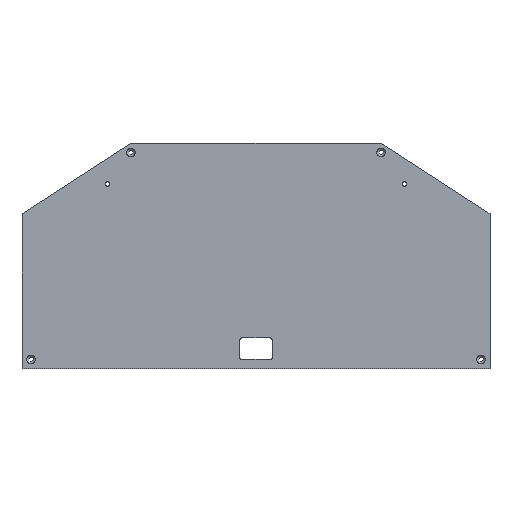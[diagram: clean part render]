
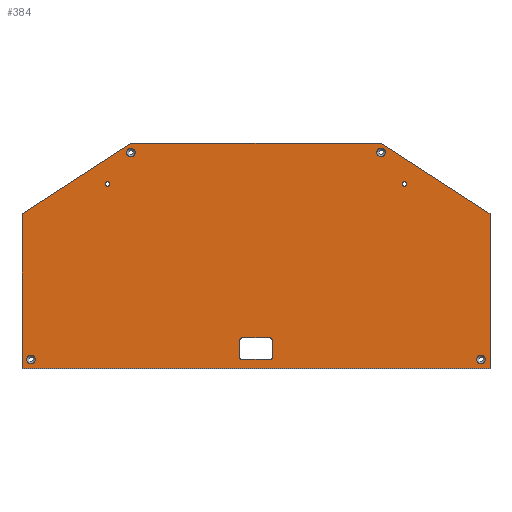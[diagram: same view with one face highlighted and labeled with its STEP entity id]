
A CAD part, top view. The second image highlights one B-rep face of the part: STEP entity #384.
In plain terms, the highlighted planar face has unit normal (0, 0, 1).
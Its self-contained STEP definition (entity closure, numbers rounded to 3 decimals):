
#123=CARTESIAN_POINT('Axis2P3D Location',(0.,0.,6.)) ;
#128=CARTESIAN_POINT('Line Origine',(130.,0.,6.)) ;
#132=CARTESIAN_POINT('Vertex',(0.,0.,6.)) ;
#134=CARTESIAN_POINT('Vertex',(260.,0.,6.)) ;
#137=CARTESIAN_POINT('Line Origine',(260.,86.,6.)) ;
#141=CARTESIAN_POINT('Vertex',(260.,172.,6.)) ;
#144=CARTESIAN_POINT('Line Origine',(199.945,211.,6.)) ;
#148=CARTESIAN_POINT('Vertex',(139.891,250.,6.)) ;
#151=CARTESIAN_POINT('Line Origine',(69.945,250.,6.)) ;
#155=CARTESIAN_POINT('Vertex',(0.,250.,6.)) ;
#158=CARTESIAN_POINT('Line Origine',(-69.945,250.,6.)) ;
#162=CARTESIAN_POINT('Vertex',(-139.891,250.,6.)) ;
#165=CARTESIAN_POINT('Line Origine',(-199.945,211.,6.)) ;
#169=CARTESIAN_POINT('Vertex',(-260.,172.,6.)) ;
#172=CARTESIAN_POINT('Line Origine',(-260.,86.,6.)) ;
#176=CARTESIAN_POINT('Vertex',(-260.,0.,6.)) ;
#179=CARTESIAN_POINT('Line Origine',(-130.,0.,6.)) ;
#194=CARTESIAN_POINT('Axis2P3D Location',(250.,10.,6.)) ;
#198=CARTESIAN_POINT('Vertex',(254.169,7.723,6.)) ;
#200=CARTESIAN_POINT('Vertex',(245.831,12.277,6.)) ;
#203=CARTESIAN_POINT('Axis2P3D Location',(250.,10.,6.)) ;
#212=CARTESIAN_POINT('Axis2P3D Location',(165.,205.,6.)) ;
#216=CARTESIAN_POINT('Vertex',(167.194,203.801,6.)) ;
#218=CARTESIAN_POINT('Vertex',(162.806,206.199,6.)) ;
#221=CARTESIAN_POINT('Axis2P3D Location',(165.,205.,6.)) ;
#230=CARTESIAN_POINT('Axis2P3D Location',(139.,240.,6.)) ;
#234=CARTESIAN_POINT('Vertex',(143.169,237.723,6.)) ;
#236=CARTESIAN_POINT('Vertex',(134.831,242.277,6.)) ;
#239=CARTESIAN_POINT('Axis2P3D Location',(139.,240.,6.)) ;
#248=CARTESIAN_POINT('Axis2P3D Location',(-165.,205.,6.)) ;
#252=CARTESIAN_POINT('Vertex',(-167.194,206.199,6.)) ;
#254=CARTESIAN_POINT('Vertex',(-162.806,203.801,6.)) ;
#257=CARTESIAN_POINT('Axis2P3D Location',(-165.,205.,6.)) ;
#266=CARTESIAN_POINT('Axis2P3D Location',(-250.,10.,6.)) ;
#270=CARTESIAN_POINT('Vertex',(-254.169,12.277,6.)) ;
#272=CARTESIAN_POINT('Vertex',(-245.831,7.723,6.)) ;
#275=CARTESIAN_POINT('Axis2P3D Location',(-250.,10.,6.)) ;
#284=CARTESIAN_POINT('Axis2P3D Location',(-139.,240.,6.)) ;
#288=CARTESIAN_POINT('Vertex',(-143.169,242.277,6.)) ;
#290=CARTESIAN_POINT('Vertex',(-134.831,237.723,6.)) ;
#293=CARTESIAN_POINT('Axis2P3D Location',(-139.,240.,6.)) ;
#302=CARTESIAN_POINT('Line Origine',(-7.75,34.,6.)) ;
#306=CARTESIAN_POINT('Vertex',(0.,34.,6.)) ;
#308=CARTESIAN_POINT('Vertex',(-15.5,34.,6.)) ;
#311=CARTESIAN_POINT('Line Origine',(7.75,34.,6.)) ;
#315=CARTESIAN_POINT('Vertex',(15.5,34.,6.)) ;
#318=CARTESIAN_POINT('Axis2P3D Location',(15.5,31.5,6.)) ;
#322=CARTESIAN_POINT('Vertex',(18.,31.5,6.)) ;
#325=CARTESIAN_POINT('Line Origine',(18.,22.,6.)) ;
#329=CARTESIAN_POINT('Vertex',(18.,12.5,6.)) ;
#332=CARTESIAN_POINT('Axis2P3D Location',(15.5,12.5,6.)) ;
#336=CARTESIAN_POINT('Vertex',(15.5,10.,6.)) ;
#339=CARTESIAN_POINT('Line Origine',(7.75,10.,6.)) ;
#343=CARTESIAN_POINT('Vertex',(0.,10.,6.)) ;
#346=CARTESIAN_POINT('Line Origine',(-7.75,10.,6.)) ;
#350=CARTESIAN_POINT('Vertex',(-15.5,10.,6.)) ;
#353=CARTESIAN_POINT('Axis2P3D Location',(-15.5,12.5,6.)) ;
#357=CARTESIAN_POINT('Vertex',(-18.,12.5,6.)) ;
#360=CARTESIAN_POINT('Line Origine',(-18.,22.,6.)) ;
#364=CARTESIAN_POINT('Vertex',(-18.,31.5,6.)) ;
#367=CARTESIAN_POINT('Axis2P3D Location',(-15.5,31.5,6.)) ;
#124=DIRECTION('Axis2P3D Direction',(0.,0.,1.)) ;
#125=DIRECTION('Axis2P3D XDirection',(1.,0.,0.)) ;
#129=DIRECTION('Vector Direction',(1.,0.,0.)) ;
#138=DIRECTION('Vector Direction',(0.,1.,0.)) ;
#145=DIRECTION('Vector Direction',(-0.839,0.545,0.)) ;
#152=DIRECTION('Vector Direction',(-1.,0.,0.)) ;
#159=DIRECTION('Vector Direction',(1.,0.,0.)) ;
#166=DIRECTION('Vector Direction',(0.839,0.545,0.)) ;
#173=DIRECTION('Vector Direction',(0.,1.,0.)) ;
#180=DIRECTION('Vector Direction',(-1.,0.,0.)) ;
#195=DIRECTION('Axis2P3D Direction',(0.,0.,1.)) ;
#204=DIRECTION('Axis2P3D Direction',(0.,0.,1.)) ;
#213=DIRECTION('Axis2P3D Direction',(0.,0.,1.)) ;
#222=DIRECTION('Axis2P3D Direction',(0.,0.,1.)) ;
#231=DIRECTION('Axis2P3D Direction',(0.,0.,1.)) ;
#240=DIRECTION('Axis2P3D Direction',(0.,0.,1.)) ;
#249=DIRECTION('Axis2P3D Direction',(0.,0.,1.)) ;
#258=DIRECTION('Axis2P3D Direction',(0.,0.,1.)) ;
#267=DIRECTION('Axis2P3D Direction',(0.,0.,1.)) ;
#276=DIRECTION('Axis2P3D Direction',(0.,0.,1.)) ;
#285=DIRECTION('Axis2P3D Direction',(0.,0.,1.)) ;
#294=DIRECTION('Axis2P3D Direction',(0.,0.,1.)) ;
#303=DIRECTION('Vector Direction',(1.,0.,0.)) ;
#312=DIRECTION('Vector Direction',(-1.,0.,0.)) ;
#319=DIRECTION('Axis2P3D Direction',(0.,0.,1.)) ;
#326=DIRECTION('Vector Direction',(0.,-1.,0.)) ;
#333=DIRECTION('Axis2P3D Direction',(0.,0.,1.)) ;
#340=DIRECTION('Vector Direction',(1.,0.,0.)) ;
#347=DIRECTION('Vector Direction',(-1.,0.,0.)) ;
#354=DIRECTION('Axis2P3D Direction',(0.,0.,1.)) ;
#361=DIRECTION('Vector Direction',(0.,-1.,0.)) ;
#368=DIRECTION('Axis2P3D Direction',(0.,0.,1.)) ;
#126=AXIS2_PLACEMENT_3D('Plane Axis2P3D',#123,#124,#125) ;
#196=AXIS2_PLACEMENT_3D('Circle Axis2P3D',#194,#195,$) ;
#205=AXIS2_PLACEMENT_3D('Circle Axis2P3D',#203,#204,$) ;
#214=AXIS2_PLACEMENT_3D('Circle Axis2P3D',#212,#213,$) ;
#223=AXIS2_PLACEMENT_3D('Circle Axis2P3D',#221,#222,$) ;
#232=AXIS2_PLACEMENT_3D('Circle Axis2P3D',#230,#231,$) ;
#241=AXIS2_PLACEMENT_3D('Circle Axis2P3D',#239,#240,$) ;
#250=AXIS2_PLACEMENT_3D('Circle Axis2P3D',#248,#249,$) ;
#259=AXIS2_PLACEMENT_3D('Circle Axis2P3D',#257,#258,$) ;
#268=AXIS2_PLACEMENT_3D('Circle Axis2P3D',#266,#267,$) ;
#277=AXIS2_PLACEMENT_3D('Circle Axis2P3D',#275,#276,$) ;
#286=AXIS2_PLACEMENT_3D('Circle Axis2P3D',#284,#285,$) ;
#295=AXIS2_PLACEMENT_3D('Circle Axis2P3D',#293,#294,$) ;
#320=AXIS2_PLACEMENT_3D('Circle Axis2P3D',#318,#319,$) ;
#334=AXIS2_PLACEMENT_3D('Circle Axis2P3D',#332,#333,$) ;
#355=AXIS2_PLACEMENT_3D('Circle Axis2P3D',#353,#354,$) ;
#369=AXIS2_PLACEMENT_3D('Circle Axis2P3D',#367,#368,$) ;
#185=ORIENTED_EDGE('',*,*,#136,.T.) ;
#186=ORIENTED_EDGE('',*,*,#143,.T.) ;
#187=ORIENTED_EDGE('',*,*,#150,.T.) ;
#188=ORIENTED_EDGE('',*,*,#157,.T.) ;
#189=ORIENTED_EDGE('',*,*,#164,.T.) ;
#190=ORIENTED_EDGE('',*,*,#171,.T.) ;
#191=ORIENTED_EDGE('',*,*,#178,.T.) ;
#192=ORIENTED_EDGE('',*,*,#183,.T.) ;
#209=ORIENTED_EDGE('',*,*,#202,.F.) ;
#210=ORIENTED_EDGE('',*,*,#207,.F.) ;
#227=ORIENTED_EDGE('',*,*,#220,.F.) ;
#228=ORIENTED_EDGE('',*,*,#225,.F.) ;
#245=ORIENTED_EDGE('',*,*,#238,.F.) ;
#246=ORIENTED_EDGE('',*,*,#243,.F.) ;
#263=ORIENTED_EDGE('',*,*,#256,.F.) ;
#264=ORIENTED_EDGE('',*,*,#261,.F.) ;
#281=ORIENTED_EDGE('',*,*,#274,.F.) ;
#282=ORIENTED_EDGE('',*,*,#279,.F.) ;
#299=ORIENTED_EDGE('',*,*,#292,.F.) ;
#300=ORIENTED_EDGE('',*,*,#297,.F.) ;
#373=ORIENTED_EDGE('',*,*,#310,.F.) ;
#374=ORIENTED_EDGE('',*,*,#317,.F.) ;
#375=ORIENTED_EDGE('',*,*,#324,.F.) ;
#376=ORIENTED_EDGE('',*,*,#331,.F.) ;
#377=ORIENTED_EDGE('',*,*,#338,.F.) ;
#378=ORIENTED_EDGE('',*,*,#345,.F.) ;
#379=ORIENTED_EDGE('',*,*,#352,.F.) ;
#380=ORIENTED_EDGE('',*,*,#359,.F.) ;
#381=ORIENTED_EDGE('',*,*,#366,.F.) ;
#382=ORIENTED_EDGE('',*,*,#371,.F.) ;
#211=FACE_BOUND('',#208,.T.) ;
#229=FACE_BOUND('',#226,.T.) ;
#247=FACE_BOUND('',#244,.T.) ;
#265=FACE_BOUND('',#262,.T.) ;
#283=FACE_BOUND('',#280,.T.) ;
#301=FACE_BOUND('',#298,.T.) ;
#383=FACE_BOUND('',#372,.T.) ;
#130=VECTOR('Line Direction',#129,1.) ;
#139=VECTOR('Line Direction',#138,1.) ;
#146=VECTOR('Line Direction',#145,1.) ;
#153=VECTOR('Line Direction',#152,1.) ;
#160=VECTOR('Line Direction',#159,1.) ;
#167=VECTOR('Line Direction',#166,1.) ;
#174=VECTOR('Line Direction',#173,1.) ;
#181=VECTOR('Line Direction',#180,1.) ;
#304=VECTOR('Line Direction',#303,1.) ;
#313=VECTOR('Line Direction',#312,1.) ;
#327=VECTOR('Line Direction',#326,1.) ;
#341=VECTOR('Line Direction',#340,1.) ;
#348=VECTOR('Line Direction',#347,1.) ;
#362=VECTOR('Line Direction',#361,1.) ;
#384=ADVANCED_FACE('PartBody',(#193,#211,#229,#247,#265,#283,#301,#383),#127,.T.) ;
#197=CIRCLE('generated circle',#196,4.75) ;
#206=CIRCLE('generated circle',#205,4.75) ;
#215=CIRCLE('generated circle',#214,2.5) ;
#224=CIRCLE('generated circle',#223,2.5) ;
#233=CIRCLE('generated circle',#232,4.75) ;
#242=CIRCLE('generated circle',#241,4.75) ;
#251=CIRCLE('generated circle',#250,2.5) ;
#260=CIRCLE('generated circle',#259,2.5) ;
#269=CIRCLE('generated circle',#268,4.75) ;
#278=CIRCLE('generated circle',#277,4.75) ;
#287=CIRCLE('generated circle',#286,4.75) ;
#296=CIRCLE('generated circle',#295,4.75) ;
#321=CIRCLE('generated circle',#320,2.5) ;
#335=CIRCLE('generated circle',#334,2.5) ;
#356=CIRCLE('generated circle',#355,2.5) ;
#370=CIRCLE('generated circle',#369,2.5) ;
#136=EDGE_CURVE('',#133,#135,#131,.T.) ;
#143=EDGE_CURVE('',#135,#142,#140,.T.) ;
#150=EDGE_CURVE('',#142,#149,#147,.T.) ;
#157=EDGE_CURVE('',#149,#156,#154,.T.) ;
#164=EDGE_CURVE('',#156,#163,#161,.F.) ;
#171=EDGE_CURVE('',#163,#170,#168,.F.) ;
#178=EDGE_CURVE('',#170,#177,#175,.F.) ;
#183=EDGE_CURVE('',#177,#133,#182,.F.) ;
#202=EDGE_CURVE('',#199,#201,#197,.T.) ;
#207=EDGE_CURVE('',#201,#199,#206,.T.) ;
#220=EDGE_CURVE('',#217,#219,#215,.T.) ;
#225=EDGE_CURVE('',#219,#217,#224,.T.) ;
#238=EDGE_CURVE('',#235,#237,#233,.T.) ;
#243=EDGE_CURVE('',#237,#235,#242,.T.) ;
#256=EDGE_CURVE('',#253,#255,#251,.T.) ;
#261=EDGE_CURVE('',#255,#253,#260,.T.) ;
#274=EDGE_CURVE('',#271,#273,#269,.T.) ;
#279=EDGE_CURVE('',#273,#271,#278,.T.) ;
#292=EDGE_CURVE('',#289,#291,#287,.T.) ;
#297=EDGE_CURVE('',#291,#289,#296,.T.) ;
#310=EDGE_CURVE('',#307,#309,#305,.F.) ;
#317=EDGE_CURVE('',#316,#307,#314,.T.) ;
#324=EDGE_CURVE('',#323,#316,#321,.T.) ;
#331=EDGE_CURVE('',#330,#323,#328,.F.) ;
#338=EDGE_CURVE('',#337,#330,#335,.T.) ;
#345=EDGE_CURVE('',#344,#337,#342,.T.) ;
#352=EDGE_CURVE('',#351,#344,#349,.F.) ;
#359=EDGE_CURVE('',#358,#351,#356,.T.) ;
#366=EDGE_CURVE('',#365,#358,#363,.T.) ;
#371=EDGE_CURVE('',#309,#365,#370,.T.) ;
#184=EDGE_LOOP('',(#185,#186,#187,#188,#189,#190,#191,#192)) ;
#208=EDGE_LOOP('',(#209,#210)) ;
#226=EDGE_LOOP('',(#227,#228)) ;
#244=EDGE_LOOP('',(#245,#246)) ;
#262=EDGE_LOOP('',(#263,#264)) ;
#280=EDGE_LOOP('',(#281,#282)) ;
#298=EDGE_LOOP('',(#299,#300)) ;
#372=EDGE_LOOP('',(#373,#374,#375,#376,#377,#378,#379,#380,#381,#382)) ;
#193=FACE_OUTER_BOUND('',#184,.T.) ;
#131=LINE('Line',#128,#130) ;
#140=LINE('Line',#137,#139) ;
#147=LINE('Line',#144,#146) ;
#154=LINE('Line',#151,#153) ;
#161=LINE('Line',#158,#160) ;
#168=LINE('Line',#165,#167) ;
#175=LINE('Line',#172,#174) ;
#182=LINE('Line',#179,#181) ;
#305=LINE('Line',#302,#304) ;
#314=LINE('Line',#311,#313) ;
#328=LINE('Line',#325,#327) ;
#342=LINE('Line',#339,#341) ;
#349=LINE('Line',#346,#348) ;
#363=LINE('Line',#360,#362) ;
#127=PLANE('Plane',#126) ;
#133=VERTEX_POINT('',#132) ;
#135=VERTEX_POINT('',#134) ;
#142=VERTEX_POINT('',#141) ;
#149=VERTEX_POINT('',#148) ;
#156=VERTEX_POINT('',#155) ;
#163=VERTEX_POINT('',#162) ;
#170=VERTEX_POINT('',#169) ;
#177=VERTEX_POINT('',#176) ;
#199=VERTEX_POINT('',#198) ;
#201=VERTEX_POINT('',#200) ;
#217=VERTEX_POINT('',#216) ;
#219=VERTEX_POINT('',#218) ;
#235=VERTEX_POINT('',#234) ;
#237=VERTEX_POINT('',#236) ;
#253=VERTEX_POINT('',#252) ;
#255=VERTEX_POINT('',#254) ;
#271=VERTEX_POINT('',#270) ;
#273=VERTEX_POINT('',#272) ;
#289=VERTEX_POINT('',#288) ;
#291=VERTEX_POINT('',#290) ;
#307=VERTEX_POINT('',#306) ;
#309=VERTEX_POINT('',#308) ;
#316=VERTEX_POINT('',#315) ;
#323=VERTEX_POINT('',#322) ;
#330=VERTEX_POINT('',#329) ;
#337=VERTEX_POINT('',#336) ;
#344=VERTEX_POINT('',#343) ;
#351=VERTEX_POINT('',#350) ;
#358=VERTEX_POINT('',#357) ;
#365=VERTEX_POINT('',#364) ;
